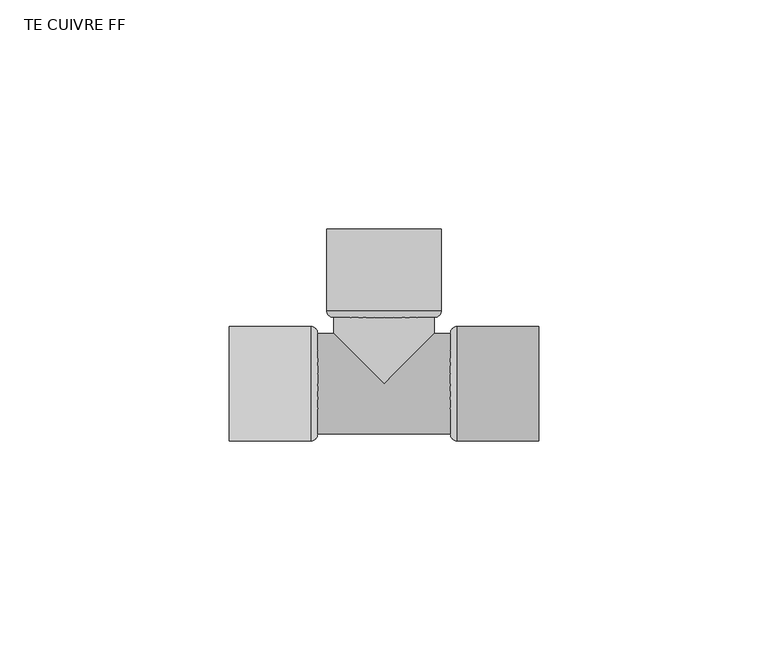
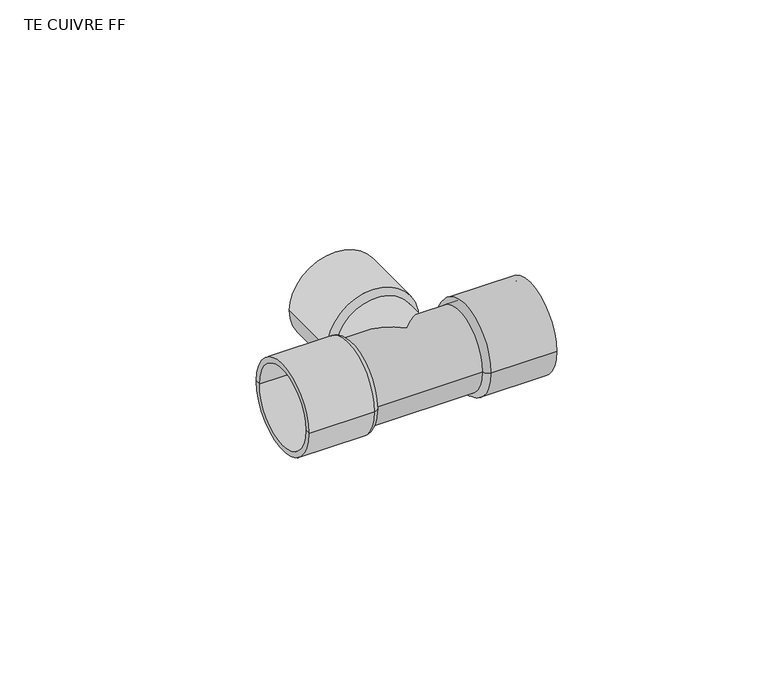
"""IFC4 building model written with IfcOpenShell, lengths in millimetres: pipe fitting geometry, TE CUIVRE FF : diamètre exterieur."""

from ifc_helpers import new_model, si_unit, point, frame, origin, place, context, project, spatial, polyline, circle_curve, ellipse_curve, trimmed, source, transform, mapped, element, save
from ifc_brep_helpers import plane_surface, cylinder_surface, revolved_surface, advanced_brep


def te_cuivre_ff_bd89a1cf(model_context):
    return source(origin(), model_context, "Body", "AdvancedBrep", [
        advanced_brep(
        [(12.5, 16.0, 0.0), (-12.5, 16.0, 0.0), (-12.5, 33.7928932, 0.0), (12.5, 33.7928932, 0.0), (11.0, 14.5, 0.0), (-11.0, 14.5, 0.0), (11.0, 33.7928932, 0.0), (-11.0, 33.7928932, 0.0)],
        [
            (0, 1, circle_curve(frame((0.0, 16.0, 0.0), z_axis=(0.0, 1.0, 0.0), x_axis=(-1.0000000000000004, 0.0, 0.0)), 12.5)),
            (1, 2),
            (2, 3, circle_curve(frame((0.0, 33.7928932, 0.0), z_axis=(0.0, -1.0, 0.0), x_axis=(-1.0000000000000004, 0.0, 0.0)), 12.5)),
            (3, 0),
            (1, 0, circle_curve(frame((0.0, 16.0, 0.0), z_axis=(0.0, 1.0, 0.0), x_axis=(-1.0000000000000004, 0.0, 0.0)), 12.5)),
            (3, 2, circle_curve(frame((0.0, 33.7928932, 0.0), z_axis=(0.0, -1.0, 0.0), x_axis=(-1.0000000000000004, 0.0, 0.0)), 12.5)),
            (4, 5, circle_curve(frame((0.0, 14.5, 0.0), z_axis=(0.0, 1.0, 0.0), x_axis=(-1.0000000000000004, 0.0, 0.0)), 11.0)),
            (5, 1, circle_curve(frame((-11.0, 16.0, 0.0), z_axis=(0.0, 0.0, -1.0000000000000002), x_axis=(0.0, 1.0000000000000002, 0.0)), 1.5)),
            (0, 4, circle_curve(frame((11.0, 16.0, 0.0), z_axis=(0.0, 0.0, -1.0000000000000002), x_axis=(0.0, 1.0000000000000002, 0.0)), 1.5)),
            (5, 4, circle_curve(frame((0.0, 14.5, 0.0), z_axis=(0.0, 1.0, 0.0), x_axis=(-1.0000000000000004, 0.0, 0.0)), 11.0)),
            (6, 7, circle_curve(frame((0.0, 33.7928932, 0.0), z_axis=(0.0, 1.0, 0.0), x_axis=(-1.0000000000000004, 0.0, 0.0)), 11.0)),
            (7, 5),
            (4, 6),
            (7, 6, circle_curve(frame((0.0, 33.7928932, 0.0), z_axis=(0.0, 1.0, 0.0), x_axis=(-1.0000000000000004, 0.0, 0.0)), 11.0)),
            (2, 7),
            (6, 3),
        ],
        [
            cylinder_surface(frame((0.0, 37.0, 0.0), z_axis=(0.0, -1.0000000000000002, 0.0), x_axis=(-1.0000000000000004, 0.0, 0.0)), 12.5),
            revolved_surface(trimmed(ellipse_curve(frame((-11.0, 16.0, 0.0), z_axis=(0.0, 0.0, 1.0000000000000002), x_axis=(0.0, 1.0000000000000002, 0.0)), 1.5, 1.5), [point((-12.5, 16.0, 0.0))], [point((-11.0, 14.5, 0.0))], True, "CARTESIAN"), (0.0, 37.0, 0.0), (0.0, -1.0000000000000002, 0.0)),
            revolved_surface(polyline([(-11.000000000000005, 14.499999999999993, 0.0), (-11.000000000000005, 33.7928932, 0.0)]), (0.0, 37.0, 0.0), (0.0, -1.0000000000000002, 0.0)),
            plane_surface(frame((0.0, 33.7928932, 0.0), z_axis=(0.0, 1.0, 0.0), x_axis=(-1.0, 0.0, 0.0))),
        ],
        [
            (0, [[1, 2, 3, 4]]),
            (0, [[5, -4, 6, -2]]),
            (1, [[7, 8, -1, 9]]),
            (1, [[10, -9, -5, -8]]),
            (2, [[11, 12, -7, 13]]),
            (2, [[14, -13, -10, -12]]),
            (3, [[-3, 15, -11, 16]]),
            (3, [[-6, -16, -14, -15]]),
        ],
    ),
        advanced_brep(
        [(16.0, 12.5, 0.0), (33.7928932, 12.5, 0.0), (33.7928932, -12.5, 0.0), (16.0, -12.5, 0.0), (14.5, 11.0, 0.0), (14.5, -11.0, 0.0), (33.7928932, 11.0, 0.0), (33.7928932, -11.0, 0.0)],
        [
            (0, 1),
            (1, 2, circle_curve(frame((33.7928932, 0.0, 0.0), z_axis=(-1.0, 0.0, 0.0), x_axis=(0.0, -1.0, 0.0)), 12.5)),
            (2, 3),
            (3, 0, circle_curve(frame((16.0, 0.0, 0.0), z_axis=(1.0, 0.0, 0.0), x_axis=(0.0, -1.0, 0.0)), 12.5)),
            (2, 1, circle_curve(frame((33.7928932, 0.0, 0.0), z_axis=(-1.0, 0.0, 0.0), x_axis=(0.0, -1.0, 0.0)), 12.5)),
            (0, 3, circle_curve(frame((16.0, 0.0, 0.0), z_axis=(1.0, 0.0, 0.0), x_axis=(0.0, -1.0, 0.0)), 12.5)),
            (4, 0, circle_curve(frame((16.0, 11.0, 0.0), z_axis=(0.0, 0.0, -1.0), x_axis=(1.0, 0.0, 0.0)), 1.5)),
            (3, 5, circle_curve(frame((16.0, -11.0, 0.0), z_axis=(0.0, 0.0, -1.0), x_axis=(1.0, 0.0, 0.0)), 1.5)),
            (5, 4, circle_curve(frame((14.5, 0.0, 0.0), z_axis=(1.0, 0.0, 0.0), x_axis=(0.0, -1.0, 0.0)), 11.0)),
            (4, 5, circle_curve(frame((14.5, 0.0, 0.0), z_axis=(1.0, 0.0, 0.0), x_axis=(0.0, -1.0, 0.0)), 11.0)),
            (6, 4),
            (5, 7),
            (7, 6, circle_curve(frame((33.7928932, 0.0, 0.0), z_axis=(1.0, 0.0, 0.0), x_axis=(0.0, -1.0, 0.0)), 11.0)),
            (6, 7, circle_curve(frame((33.7928932, 0.0, 0.0), z_axis=(1.0, 0.0, 0.0), x_axis=(0.0, -1.0, 0.0)), 11.0)),
            (1, 6),
            (7, 2),
        ],
        [
            cylinder_surface(frame((37.0, 0.0, 0.0), z_axis=(-1.0, 0.0, 0.0), x_axis=(0.0, -1.0, 0.0)), 12.5),
            revolved_surface(trimmed(ellipse_curve(frame((16.0, -11.0, 0.0), z_axis=(0.0, 0.0, -1.0), x_axis=(1.0, 0.0, 0.0)), 1.5, 1.5), [point((16.0, -12.5, 0.0))], [point((14.5, -11.0, 0.0))], True, "CARTESIAN"), (37.0, 0.0, 0.0), (-1.0, 0.0, 0.0)),
            revolved_surface(polyline([(14.5, -11.0, 0.0), (33.7928932, -11.0, 0.0)]), (37.0, 0.0, 0.0), (-1.0, 0.0, 0.0)),
            plane_surface(frame((33.7928932, 0.0, 0.0), z_axis=(1.0, 0.0, 0.0), x_axis=(0.0, -1.0, 0.0))),
        ],
        [
            (0, [[1, 2, 3, 4]]),
            (0, [[-3, 5, -1, 6]]),
            (1, [[7, -4, 8, 9]]),
            (1, [[-8, -6, -7, 10]]),
            (2, [[11, -9, 12, 13]]),
            (2, [[-12, -10, -11, 14]]),
            (3, [[15, -13, 16, -2]]),
            (3, [[-16, -14, -15, -5]]),
        ],
    ),
        advanced_brep(
        [(-16.0, 12.5, 0.0), (-16.0, -12.5, 0.0), (-33.7928932, -12.5, 0.0), (-33.7928932, 12.5, 0.0), (-14.5, 11.0, 0.0), (-14.5, -11.0, 0.0), (-33.7928932, 11.0, 0.0), (-33.7928932, -11.0, 0.0)],
        [
            (0, 1, circle_curve(frame((-16.0, 0.0, 0.0), z_axis=(-1.0, 0.0, 0.0), x_axis=(0.0, -1.0, 0.0)), 12.5)),
            (1, 2),
            (2, 3, circle_curve(frame((-33.7928932, 0.0, 0.0), z_axis=(1.0, 0.0, 0.0), x_axis=(0.0, -1.0, 0.0)), 12.5)),
            (3, 0),
            (1, 0, circle_curve(frame((-16.0, 0.0, 0.0), z_axis=(-1.0, 0.0, 0.0), x_axis=(0.0, -1.0, 0.0)), 12.5)),
            (3, 2, circle_curve(frame((-33.7928932, 0.0, 0.0), z_axis=(1.0, 0.0, 0.0), x_axis=(0.0, -1.0, 0.0)), 12.5)),
            (4, 5, circle_curve(frame((-14.5, 0.0, 0.0), z_axis=(-1.0, 0.0, 0.0), x_axis=(0.0, -1.0, 0.0)), 11.0)),
            (5, 1, circle_curve(frame((-16.0, -11.0, 0.0), z_axis=(0.0, 0.0, -1.0), x_axis=(-1.0, 0.0, 0.0)), 1.5)),
            (0, 4, circle_curve(frame((-16.0, 11.0, 0.0), z_axis=(0.0, 0.0, -1.0), x_axis=(-1.0, 0.0, 0.0)), 1.5)),
            (5, 4, circle_curve(frame((-14.5, 0.0, 0.0), z_axis=(-1.0, 0.0, 0.0), x_axis=(0.0, -1.0, 0.0)), 11.0)),
            (6, 7, circle_curve(frame((-33.7928932, 0.0, 0.0), z_axis=(-1.0, 0.0, 0.0), x_axis=(0.0, -1.0, 0.0)), 11.0)),
            (7, 5),
            (4, 6),
            (7, 6, circle_curve(frame((-33.7928932, 0.0, 0.0), z_axis=(-1.0, 0.0, 0.0), x_axis=(0.0, -1.0, 0.0)), 11.0)),
            (2, 7),
            (6, 3),
        ],
        [
            cylinder_surface(frame((-37.0, 0.0, 0.0), z_axis=(1.0, 0.0, 0.0), x_axis=(0.0, -1.0, 0.0)), 12.5),
            revolved_surface(trimmed(ellipse_curve(frame((-16.0, -11.0, 0.0), z_axis=(0.0, 0.0, 1.0), x_axis=(-1.0, 0.0, 0.0)), 1.5, 1.5), [point((-16.0, -12.5, 0.0))], [point((-14.5, -11.0, 0.0))], True, "CARTESIAN"), (-37.0, 0.0, 0.0), (1.0, 0.0, 0.0)),
            revolved_surface(polyline([(-14.5, -11.0, 0.0), (-33.7928932, -11.0, 0.0)]), (-37.0, 0.0, 0.0), (1.0, 0.0, 0.0)),
            plane_surface(frame((-33.7928932, 0.0, 0.0), z_axis=(-1.0, 0.0, 0.0), x_axis=(0.0, -1.0, 0.0))),
        ],
        [
            (0, [[1, 2, 3, 4]]),
            (0, [[5, -4, 6, -2]]),
            (1, [[7, 8, -1, 9]]),
            (1, [[10, -9, -5, -8]]),
            (2, [[11, 12, -7, 13]]),
            (2, [[14, -13, -10, -12]]),
            (3, [[-3, 15, -11, 16]]),
            (3, [[-6, -16, -14, -15]]),
        ],
    ),
        advanced_brep(
        [(-16.0, -11.0, 0.0), (-16.0, 11.0, 0.0), (16.0, -11.0, 0.0), (16.0, 11.0, 0.0), (11.0, 11.0, 0.0), (0.0, 0.0, 11.0), (-11.0, 11.0, 0.0), (0.0, 0.0, -11.0), (11.0, 16.0, 0.0), (-11.0, 16.0, 0.0)],
        [
            (0, 1, circle_curve(frame((-16.0, 0.0, 0.0), z_axis=(-1.0, 0.0, 0.0), x_axis=(0.0, 1.0, 0.0)), 11.0)),
            (1, 0, circle_curve(frame((-16.0, 0.0, 0.0), z_axis=(-1.0, 0.0, 0.0), x_axis=(0.0, 1.0, 0.0)), 11.0)),
            (2, 3, circle_curve(frame((16.0, 0.0, 0.0), z_axis=(1.0, 0.0, 0.0), x_axis=(0.0, 1.0, 0.0)), 11.0)),
            (3, 2, circle_curve(frame((16.0, 0.0, 0.0), z_axis=(1.0, 0.0, 0.0), x_axis=(0.0, 1.0, 0.0)), 11.0)),
            (0, 2),
            (3, 4),
            (4, 5, ellipse_curve(frame((0.0, 0.0, 0.0), z_axis=(0.7071067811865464, -0.7071067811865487, 0.0), x_axis=(-0.7071067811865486, -0.7071067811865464, 0.0)), 15.5563492, 11.0)),
            (5, 6, ellipse_curve(frame((0.0, 0.0, 0.0), z_axis=(-0.7071067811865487, -0.7071067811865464, 0.0), x_axis=(-0.7071067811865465, 0.7071067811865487, 0.0)), 15.5563492, 11.0)),
            (6, 1),
            (6, 7, ellipse_curve(frame((0.0, 0.0, 0.0), z_axis=(-0.7071067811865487, -0.7071067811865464, 0.0), x_axis=(-0.7071067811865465, 0.7071067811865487, 0.0)), 15.5563492, 11.0)),
            (7, 4, ellipse_curve(frame((0.0, 0.0, 0.0), z_axis=(0.7071067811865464, -0.7071067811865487, 0.0), x_axis=(-0.7071067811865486, -0.7071067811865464, 0.0)), 15.5563492, 11.0)),
            (8, 9, circle_curve(frame((0.0, 16.0, 0.0), z_axis=(0.0, 1.0, 0.0), x_axis=(-1.0, 0.0, 0.0)), 11.0)),
            (9, 8, circle_curve(frame((0.0, 16.0, 0.0), z_axis=(0.0, 1.0, 0.0), x_axis=(-1.0, 0.0, 0.0)), 11.0)),
            (9, 6),
            (4, 8),
        ],
        [
            plane_surface(frame((-16.0, 0.0, 0.0), z_axis=(-1.0, 0.0, 0.0), x_axis=(0.0, 0.0, 1.0))),
            plane_surface(frame((16.0, 0.0, 0.0), z_axis=(1.0, 0.0, 0.0), x_axis=(0.0, 0.0, 1.0))),
            cylinder_surface(frame((-16.0, 0.0, 0.0), z_axis=(-1.0, 0.0, 0.0), x_axis=(0.0, 1.0, 0.0)), 11.0),
            plane_surface(frame((0.0, 16.0, 0.0), z_axis=(0.0, 1.0, 0.0), x_axis=(0.0, 0.0, 1.0))),
            cylinder_surface(frame((0.0, 0.0, 0.0), z_axis=(0.0, -1.0, 0.0), x_axis=(-1.0, 0.0, 0.0)), 11.0),
        ],
        [
            (0, [[1, 2]]),
            (1, [[3, 4]]),
            (2, [[-1, 5, -4, 6, 7, 8, 9]]),
            (2, [[-2, -9, 10, 11, -6, -3, -5]]),
            (3, [[12, 13]]),
            (4, [[-13, 14, -8, -7, 15]]),
            (4, [[-12, -15, -11, -10, -14]]),
        ],
    ),
    ])


if __name__ == "__main__":
    model = new_model("IFC4")
    model_context = context("Model", 3, world=origin())
    ifc_project = project(units=[si_unit("LENGTHUNIT", "METRE", prefix="MILLI")], contexts=[model_context])
    site = spatial("IfcSite", under=ifc_project)
    building = spatial("IfcBuilding", under=site)
    placement = place(None, origin())
    te_cuivre_ff_shape = te_cuivre_ff_bd89a1cf(model_context)
    element("IfcPipeFitting", 1, ObjectType="TE CUIVRE FF : diamètre exterieur", at=placement, inside=building, context=model_context, shape_type="MappedRepresentation", body=[
        mapped(te_cuivre_ff_shape, transform((0.0, 0.0, 0.0), x_axis=(1.0, 0.0, 0.0), y_axis=(0.0, 1.0, 0.0), z_axis=(0.0, 0.0, 1.0))),
    ])
    save(model, "model.ifc")
